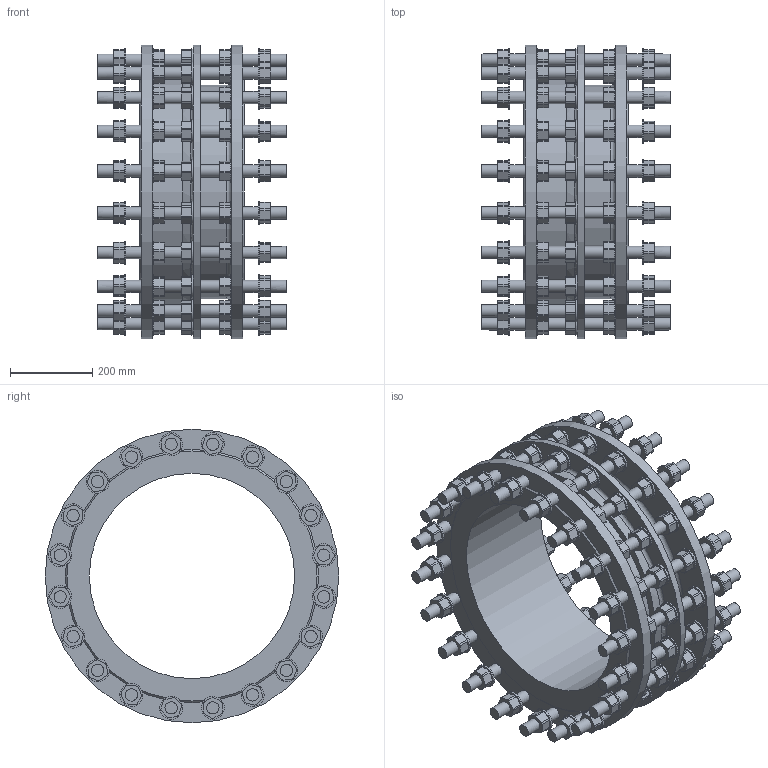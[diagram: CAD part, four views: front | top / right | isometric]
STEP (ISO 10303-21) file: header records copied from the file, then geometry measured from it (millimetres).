
FILE_DESCRIPTION (( 'STEP AP203' ), '1' );
FILE_NAME ('O_265_910_DN500_1XXXXX00_L=255_REV01.step', '2024-10-11T10:40:57', ( '' ), ( '' ), 'SwSTEP 2.0', 'SolidWorks 2022', '' );
FILE_SCHEMA (( 'CONFIG_CONTROL_DESIGN' ));
Products named in the file (1): O_265_910_DN500_1XXXXX00_L=255_REV01
Bounding box: 460 x 715 x 715 mm (x, y, z)
Volume: 30882914.3 mm3; surface area: 2956222.5 mm2
Topology: 1 solids, 1 shells, 1780 faces, 4682 edges, 3155 vertices
Faces by surface type: plane 928, cylinder 828, torus 21, cone 3
Full cylindrical faces by diameter (mm): 30 x120, 56 x80, 500 x1, 520 x1, 556 x1, 715 x3
Entity records: 54480 total; most frequent: CARTESIAN_POINT 10142, DIRECTION 9513, ORIENTED_EDGE 8738, EDGE_CURVE 4369, AXIS2_PLACEMENT_3D 3503, VERTEX_POINT 3052, VECTOR 2507, LINE 2507
